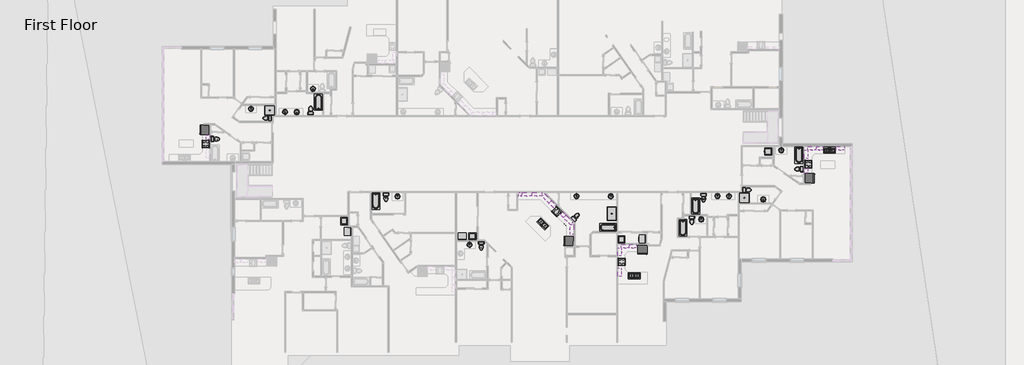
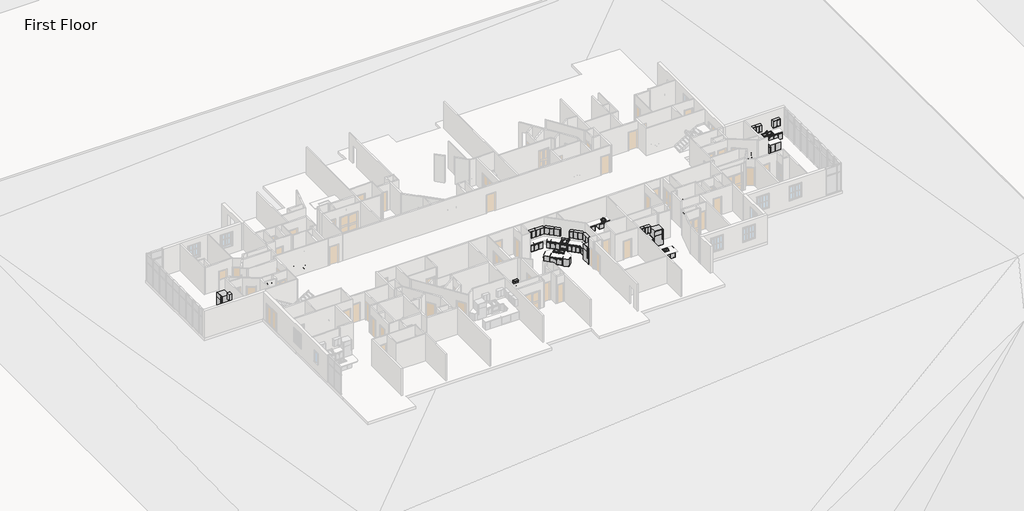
# One storey, part 14 of 17: 64 furniture elements, 35 flow terminals, 15 proxies.
"""IFC4 building model written with IfcOpenShell, lengths in millimetres."""

from ifc_helpers import new_model, si_unit, origin, place, context, project, spatial, transform, mapped, element, save
from components import proxy_6b4a07a9, proxy_fbb4c072, proxy_9109806d, proxy_718fa39f, proxy_f3e01b1d, flow_terminal_54cced83, flow_terminal_5dba0d75, flow_terminal_a53be723, flow_terminal_d49f872f, toilet_domestic_3d_toilet_domestic_3d_f7549cf7, toilet_domestic_3d_toilet_domestic_3d_183bbd19, toilet_domestic_3d_toilet_domestic_3d_a08e12bc, toilet_domestic_3d_toilet_domestic_3d_5530cc89, tub_rectangular_3d_tub_rectangular_3d_72a4d900, tub_rectangular_3d_tub_rectangular_3d_cbc2c449, furniture_0fc2bd2a, furniture_337523c0, furniture_6e8794dd, furniture_07bc9410, furniture_b282fead, furniture_94ff1b7c, furniture_6a014568, furniture_338da5bd, furniture_7de88fd5, furniture_695a55eb, furniture_b6fbc004, furniture_07c0da44, furniture_bfd559e3, base_cabinet_filler_base_cabinet_filler_2f0b3f4e, base_cabinet_filler_base_cabinet_filler_5f1ac9d6, base_cabinet_filler_base_cabinet_filler_83579e99, furniture_de2c603d, furniture_b1f16c95, furniture_c6a3367d, upper_cabinet_filler_wall_upper_cabinet_filler_wall_ebdf5134, furniture_d9efccb3, furniture_13c6450d, furniture_a47b5ef4, furniture_b880e30f, furniture_9117db5d, furniture_b34976c1, furniture_fa9c5d5b

model = new_model("IFC4")

# Units and contexts
model_context = context("Model", 3, world=origin())
ifc_project = project(units=[si_unit("LENGTHUNIT", "METRE", prefix="MILLI")], contexts=[model_context])

# Site, building, storey
site = spatial("IfcSite", under=ifc_project)
building = spatial("IfcBuilding", under=site)
storey = spatial("IfcBuildingStorey", under=building, Name="First Floor", Elevation=0.0)

# Proxies
placement = place(None, origin())
proxy_shape = proxy_6b4a07a9(model_context)
element("IfcBuildingElementProxy", 1, Name="Dryer : 30\" x 25\" x 35\"", ObjectType="Dryer : 30\" x 25\" x 35\"", at=placement, inside=storey, context=model_context, shape_type="MappedRepresentation", body=[
    mapped(proxy_shape, transform((44173.5487851, -8537.825475, 0.0), x_axis=(0.0, -1.0, 0.0), y_axis=(1.0, 0.0, 0.0), z_axis=(0.0, 0.0, 1.0))),
])
element("IfcBuildingElementProxy", 2, Name="Dryer : 30\" x 25\" x 35\"", ObjectType="Dryer : 30\" x 25\" x 35\"", at=placement, inside=storey, context=model_context, shape_type="MappedRepresentation", body=[
    mapped(proxy_shape, transform((28406.7740425, -8419.0812648, 0.0), x_axis=(-1.0, 0.0, 0.0), y_axis=(0.0, -1.0, 0.0), z_axis=(0.0, 0.0, 1.0))),
])
element("IfcBuildingElementProxy", 3, Name="Dryer : 30\" x 25\" x 35\"", ObjectType="Dryer : 30\" x 25\" x 35\"", at=placement, inside=storey, context=model_context, shape_type="MappedRepresentation", body=[
    mapped(proxy_shape, transform((17205.55813, -7837.3845163, 0.0), x_axis=(0.0, -1.0, 0.0), y_axis=(1.0, 0.0, 0.0), z_axis=(0.0, 0.0, 1.0))),
])
proxy_2_shape = proxy_fbb4c072(model_context)
element("IfcBuildingElementProxy", 4, Name="Range : 30\" x 26\"", ObjectType="Range : 30\" x 26\"", at=placement, inside=storey, context=model_context, shape_type="MappedRepresentation", body=[
    mapped(proxy_2_shape, transform((4220.3003923, 131.5202225, 0.0), x_axis=(0.0, -1.0, 0.0), y_axis=(1.0, 0.0, 0.0), z_axis=(0.0, 0.0, 1.0))),
])
element("IfcBuildingElementProxy", 5, Name="Range : 30\" x 26\"", ObjectType="Range : 30\" x 26\"", at=placement, inside=storey, context=model_context, shape_type="MappedRepresentation", body=[
    mapped(proxy_2_shape, transform((36146.5032482, -6394.5854043, 0.0), x_axis=(0.7071067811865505, -0.7071067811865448, 0.0), y_axis=(0.7071067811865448, 0.7071067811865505, 0.0), z_axis=(0.0, 0.0, 1.0))),
])
element("IfcBuildingElementProxy", 6, Name="Range : 30\" x 26\"", ObjectType="Range : 30\" x 26\"", at=placement, inside=storey, context=model_context, shape_type="MappedRepresentation", body=[
    mapped(proxy_2_shape, transform((59969.853994, -2480.7028474, 0.0), x_axis=(0.0, 1.0, 0.0), y_axis=(-1.0, 0.0, 0.0), z_axis=(0.0, 0.0, 1.0))),
])
element("IfcBuildingElementProxy", 7, Name="Range : 30\" x 26\"", ObjectType="Range : 30\" x 26\"", at=placement, inside=storey, context=model_context, shape_type="MappedRepresentation", body=[
    mapped(proxy_2_shape, transform((42884.6470292, -11433.5876998, 0.0), x_axis=(0.0, 1.0, 0.0), y_axis=(-1.0, 0.0, 0.0), z_axis=(0.0, 0.0, 1.0))),
])
proxy_3_shape = proxy_9109806d(model_context)
element("IfcBuildingElementProxy", 8, Name="Refrigerator : 35\" x 32\" RH", ObjectType="Refrigerator : 35\" x 32\" RH", at=placement, inside=storey, context=model_context, shape_type="MappedRepresentation", body=[
    mapped(proxy_3_shape, transform((4425.725539, 1036.2685137, 0.0), x_axis=(0.0, -1.0, 0.0), y_axis=(1.0, 0.0, 0.0), z_axis=(0.0, 0.0, 1.0))),
])
element("IfcBuildingElementProxy", 9, Name="Refrigerator : 35\" x 32\" RH", ObjectType="Refrigerator : 35\" x 32\" RH", at=placement, inside=storey, context=model_context, shape_type="MappedRepresentation", body=[
    mapped(proxy_3_shape, transform((37739.4505062, -9160.9400492, 0.0), x_axis=(-0.0020172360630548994, -0.9999979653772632, 0.0), y_axis=(0.9999979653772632, -0.0020172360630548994, 0.0), z_axis=(0.0, 0.0, 1.0))),
])
element("IfcBuildingElementProxy", 10, Name="Refrigerator : 35\" x 32\" RH", ObjectType="Refrigerator : 35\" x 32\" RH", at=placement, inside=storey, context=model_context, shape_type="MappedRepresentation", body=[
    mapped(proxy_3_shape, transform((59764.4288473, -3385.4511385, 0.0), x_axis=(0.0, 1.0, 0.0), y_axis=(-1.0, 0.0, 0.0), z_axis=(0.0, 0.0, 1.0))),
])
element("IfcBuildingElementProxy", 11, Name="Refrigerator : 35\" x 32\" RH", ObjectType="Refrigerator : 35\" x 32\" RH", at=placement, inside=storey, context=model_context, shape_type="MappedRepresentation", body=[
    mapped(proxy_3_shape, transform((44469.7001082, -9909.0410777, 0.0), x_axis=(1.0, 0.0, 0.0), y_axis=(0.0, 1.0, 0.0), z_axis=(0.0, 0.0, 1.0))),
])
proxy_4_shape = proxy_718fa39f(model_context)
element("IfcBuildingElementProxy", 12, Name="Washer : 27\" x 25\" x 35\"", ObjectType="Washer : 27\" x 25\" x 35\"", at=placement, inside=storey, context=model_context, shape_type="MappedRepresentation", body=[
    mapped(proxy_4_shape, transform((42820.896594, -9415.6051683, 0.0), x_axis=(0.0, 1.0, 0.0), y_axis=(-1.0, 0.0, 0.0), z_axis=(0.0, 0.0, 1.0))),
])
element("IfcBuildingElementProxy", 13, Name="Washer : 27\" x 25\" x 35\"", ObjectType="Washer : 27\" x 25\" x 35\"", at=placement, inside=storey, context=model_context, shape_type="MappedRepresentation", body=[
    mapped(proxy_4_shape, transform((29345.0797218, -8454.5927038, 0.0), x_axis=(-1.0, 0.0, 0.0), y_axis=(0.0, -1.0, 0.0), z_axis=(0.0, 0.0, 1.0))),
])
element("IfcBuildingElementProxy", 14, Name="Washer : 27\" x 25\" x 35\"", ObjectType="Washer : 27\" x 25\" x 35\"", at=placement, inside=storey, context=model_context, shape_type="MappedRepresentation", body=[
    mapped(proxy_4_shape, transform((16924.7421343, -6896.1954628, 0.0), x_axis=(0.0, -1.0, 0.0), y_axis=(1.0, 0.0, 0.0), z_axis=(0.0, 0.0, 1.0))),
])
proxy_5_shape = proxy_f3e01b1d(model_context)
element("IfcBuildingElementProxy", 15, Name="Washer_Dryer_Combo : 24\"", ObjectType="Washer_Dryer_Combo : 24\"", at=placement, inside=storey, context=model_context, shape_type="MappedRepresentation", body=[
    mapped(proxy_5_shape, transform((56408.3907443, -949.2863988, 0.0), x_axis=(0.0, -1.0, 0.0), y_axis=(1.0, 0.0, 0.0), z_axis=(0.0, 0.0, 1.0))),
])

# Flow terminals
flow_terminal_shape = flow_terminal_54cced83(model_context)
element("IfcFlowTerminal", 16, ObjectType="Shower Base-3D : 36\" x 36\"", at=placement, inside=storey, context=model_context, shape_type="MappedRepresentation", body=[
    mapped(flow_terminal_shape, transform((10380.0467971, 2838.6124849, 0.0), x_axis=(0.0, 1.0, 0.0), y_axis=(-1.0, 0.0, 0.0), z_axis=(0.0, 0.0, 1.0))),
])
element("IfcFlowTerminal", 17, ObjectType="Shower Base-3D : 36\" x 36\"", at=placement, inside=storey, context=model_context, shape_type="MappedRepresentation", body=[
    mapped(flow_terminal_shape, transform((53810.1075892, -5187.7951097, 0.0), x_axis=(0.0, -1.0, 0.0), y_axis=(1.0, 0.0, 0.0), z_axis=(0.0, 0.0, 1.0))),
])
flow_terminal_2_shape = flow_terminal_5dba0d75(model_context)
element("IfcFlowTerminal", 18, ObjectType="Shower Base-3D : 48\" x 34\"", at=placement, inside=storey, context=model_context, shape_type="MappedRepresentation", body=[
    mapped(flow_terminal_2_shape, transform((41676.7713345, -6632.5917963, 0.0), x_axis=(0.0, 1.0, 0.0), y_axis=(-1.0, 0.0, 0.0), z_axis=(0.0, 0.0, 1.0))),
])
flow_terminal_3_shape = flow_terminal_a53be723(model_context)
element("IfcFlowTerminal", 19, ObjectType="Sink Kitchen-Double : 42\" x 21\"", at=placement, inside=storey, context=model_context, shape_type="MappedRepresentation", body=[
    mapped(flow_terminal_3_shape, transform((35369.4238071, -7586.7342025, 0.0), x_axis=(-0.7071067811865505, 0.7071067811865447, 0.0), y_axis=(-0.7071067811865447, -0.7071067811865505, 0.0), z_axis=(0.0, 0.0, 1.0))),
])
element("IfcFlowTerminal", 20, ObjectType="Sink Kitchen-Double : 42\" x 21\"", at=placement, inside=storey, context=model_context, shape_type="MappedRepresentation", body=[
    mapped(flow_terminal_3_shape, transform((61579.7647534, -809.7591569, 0.0), x_axis=(1.0, 0.0, 0.0), y_axis=(0.0, 1.0, 0.0), z_axis=(0.0, 0.0, 1.0))),
])
element("IfcFlowTerminal", 21, ObjectType="Sink Kitchen-Double : 42\" x 21\"", at=placement, inside=storey, context=model_context, shape_type="MappedRepresentation", body=[
    mapped(flow_terminal_3_shape, transform((43757.5862697, -12345.6422987, 0.0), x_axis=(-1.0, 0.0, 0.0), y_axis=(0.0, -1.0, 0.0), z_axis=(0.0, 0.0, 1.0))),
])
flow_terminal_4_shape = flow_terminal_d49f872f(model_context)
element("IfcFlowTerminal", 22, ObjectType="Sink Vanity-Round : 19\" x 19\"", at=placement, inside=storey, context=model_context, shape_type="MappedRepresentation", body=[
    mapped(flow_terminal_4_shape, transform((14429.6552962, 4892.9733129, 0.0), x_axis=(-1.0, 0.0, 0.0), y_axis=(0.0, -1.0, 0.0), z_axis=(0.0, 0.0, 1.0))),
])
element("IfcFlowTerminal", 23, ObjectType="Sink Vanity-Round : 19\" x 19\"", at=placement, inside=storey, context=model_context, shape_type="MappedRepresentation", body=[
    mapped(flow_terminal_4_shape, transform((8560.7111773, 2889.4483435, 0.0), x_axis=(1.0, 0.0, 0.0), y_axis=(0.0, 1.0, 0.0), z_axis=(0.0, 0.0, 1.0))),
])
element("IfcFlowTerminal", 24, ObjectType="Sink Vanity-Round : 19\" x 19\"", at=placement, inside=storey, context=model_context, shape_type="MappedRepresentation", body=[
    mapped(flow_terminal_4_shape, transform((12946.89091, 2757.2346539, 0.0), x_axis=(-1.0, 0.0, 0.0), y_axis=(0.0, -1.0, 0.0), z_axis=(0.0, 0.0, 1.0))),
])
element("IfcFlowTerminal", 25, ObjectType="Sink Vanity-Round : 19\" x 19\"", at=placement, inside=storey, context=model_context, shape_type="MappedRepresentation", body=[
    mapped(flow_terminal_4_shape, transform((11880.09091, 2769.0116592, 0.0), x_axis=(-1.0, 0.0, 0.0), y_axis=(0.0, -1.0, 0.0), z_axis=(0.0, 0.0, 1.0))),
])
element("IfcFlowTerminal", 26, ObjectType="Sink Vanity-Round : 19\" x 19\"", at=placement, inside=storey, context=model_context, shape_type="MappedRepresentation", body=[
    mapped(flow_terminal_4_shape, transform((21972.1515274, -5140.3059377, 0.0), x_axis=(1.0, 0.0, 0.0), y_axis=(0.0, 1.0, 0.0), z_axis=(0.0, 0.0, 1.0))),
])
element("IfcFlowTerminal", 27, ObjectType="Sink Vanity-Round : 19\" x 19\"", at=placement, inside=storey, context=model_context, shape_type="MappedRepresentation", body=[
    mapped(flow_terminal_4_shape, transform((28570.2652609, -9561.5358358, 0.0), x_axis=(0.9999968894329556, -0.0024942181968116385, 0.0), y_axis=(0.0024942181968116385, 0.9999968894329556, 0.0), z_axis=(0.0, 0.0, 1.0))),
])
element("IfcFlowTerminal", 28, ObjectType="Sink Vanity-Round : 19\" x 19\"", at=placement, inside=storey, context=model_context, shape_type="MappedRepresentation", body=[
    mapped(flow_terminal_4_shape, transform((49760.4990901, -7242.1559377, 0.0), x_axis=(1.0, 0.0, 0.0), y_axis=(0.0, 1.0, 0.0), z_axis=(0.0, 0.0, 1.0))),
])
element("IfcFlowTerminal", 29, ObjectType="Sink Vanity-Round : 19\" x 19\"", at=placement, inside=storey, context=model_context, shape_type="MappedRepresentation", body=[
    mapped(flow_terminal_4_shape, transform((57094.1764749, -902.6278973, 0.0), x_axis=(1.0, 0.0, 0.0), y_axis=(0.0, 1.0, 0.0), z_axis=(0.0, 0.0, 1.0))),
])
element("IfcFlowTerminal", 30, ObjectType="Sink Vanity-Round : 19\" x 19\"", at=placement, inside=storey, context=model_context, shape_type="MappedRepresentation", body=[
    mapped(flow_terminal_4_shape, transform((55629.443209, -5238.6309683, 0.0), x_axis=(-1.0, 0.0, 0.0), y_axis=(0.0, -1.0, 0.0), z_axis=(0.0, 0.0, 1.0))),
])
element("IfcFlowTerminal", 31, ObjectType="Sink Vanity-Round : 19\" x 19\"", at=placement, inside=storey, context=model_context, shape_type="MappedRepresentation", body=[
    mapped(flow_terminal_4_shape, transform((51243.2634763, -5106.4172787, 0.0), x_axis=(1.0, 0.0, 0.0), y_axis=(0.0, 1.0, 0.0), z_axis=(0.0, 0.0, 1.0))),
])
element("IfcFlowTerminal", 32, ObjectType="Sink Vanity-Round : 19\" x 19\"", at=placement, inside=storey, context=model_context, shape_type="MappedRepresentation", body=[
    mapped(flow_terminal_4_shape, transform((52310.0634763, -5118.194284, 0.0), x_axis=(1.0, 0.0, 0.0), y_axis=(0.0, 1.0, 0.0), z_axis=(0.0, 0.0, 1.0))),
])
element("IfcFlowTerminal", 33, ObjectType="Sink Vanity-Round : 19\" x 19\"", at=placement, inside=storey, context=model_context, shape_type="MappedRepresentation", body=[
    mapped(flow_terminal_4_shape, transform((38341.7231613, -5115.6895809, 0.0), x_axis=(0.9999992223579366, -0.0012471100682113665, 0.0), y_axis=(0.0012471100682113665, 0.9999992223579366, 0.0), z_axis=(0.0, 0.0, 1.0))),
])
element("IfcFlowTerminal", 34, ObjectType="Sink Vanity-Round : 19\" x 19\"", at=placement, inside=storey, context=model_context, shape_type="MappedRepresentation", body=[
    mapped(flow_terminal_4_shape, transform((41492.5955893, -5132.2087994, 0.0), x_axis=(0.9999968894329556, -0.0024942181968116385, 0.0), y_axis=(0.0024942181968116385, 0.9999968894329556, 0.0), z_axis=(0.0, 0.0, 1.0))),
])
toilet_domestic_3d_toilet_domestic_3d_shape = toilet_domestic_3d_toilet_domestic_3d_f7549cf7(model_context)
toilet_domestic_3d_toilet_domestic_3d_2_shape = toilet_domestic_3d_toilet_domestic_3d_183bbd19(model_context)
element("IfcFlowTerminal", 35, ObjectType="Toilet-Domestic-3D : Toilet-Domestic-3D", at=placement, inside=storey, context=model_context, shape_type="MappedRepresentation", body=[
    mapped(toilet_domestic_3d_toilet_domestic_3d_shape, transform((14122.4, 2916.9069921, 0.0), x_axis=(-1.0, 0.0, 0.0), y_axis=(0.0, -1.0, 0.0), z_axis=(0.0, 0.0, 1.0))),
    mapped(toilet_domestic_3d_toilet_domestic_3d_2_shape, transform((14122.4, 2916.9069921, 0.0), x_axis=(-1.0, 0.0, 0.0), y_axis=(0.0, -1.0, 0.0), z_axis=(0.0, 0.0, 1.0))),
])
element("IfcFlowTerminal", 36, ObjectType="Toilet-Domestic-3D : Toilet-Domestic-3D", at=placement, inside=storey, context=model_context, shape_type="MappedRepresentation", body=[
    mapped(toilet_domestic_3d_toilet_domestic_3d_shape, transform((5489.6964197, 205.0443161, 0.0), x_axis=(0.0, 1.0, 0.0), y_axis=(-1.0, 0.0, 0.0), z_axis=(0.0, 0.0, 1.0))),
    mapped(toilet_domestic_3d_toilet_domestic_3d_2_shape, transform((5489.6964197, 205.0443161, 0.0), x_axis=(0.0, 1.0, 0.0), y_axis=(-1.0, 0.0, 0.0), z_axis=(0.0, 0.0, 1.0))),
])
element("IfcFlowTerminal", 37, ObjectType="Toilet-Domestic-3D : Toilet-Domestic-3D", at=placement, inside=storey, context=model_context, shape_type="MappedRepresentation", body=[
    mapped(toilet_domestic_3d_toilet_domestic_3d_shape, transform((21010.1543863, -5232.0826248, 0.0), x_axis=(1.0, 0.0, 0.0), y_axis=(0.0, 1.0, 0.0), z_axis=(0.0, 0.0, 1.0))),
    mapped(toilet_domestic_3d_toilet_domestic_3d_2_shape, transform((21010.1543863, -5232.0826248, 0.0), x_axis=(1.0, 0.0, 0.0), y_axis=(0.0, 1.0, 0.0), z_axis=(0.0, 0.0, 1.0))),
])
element("IfcFlowTerminal", 38, ObjectType="Toilet-Domestic-3D : Toilet-Domestic-3D", at=placement, inside=storey, context=model_context, shape_type="MappedRepresentation", body=[
    mapped(toilet_domestic_3d_toilet_domestic_3d_shape, transform((29733.3816535, -9682.6542097, 0.0), x_axis=(1.0, 0.0, 0.0), y_axis=(0.0, 1.0, 0.0), z_axis=(0.0, 0.0, 1.0))),
    mapped(toilet_domestic_3d_toilet_domestic_3d_2_shape, transform((29733.3816535, -9682.6542097, 0.0), x_axis=(1.0, 0.0, 0.0), y_axis=(0.0, 1.0, 0.0), z_axis=(0.0, 0.0, 1.0))),
])
element("IfcFlowTerminal", 39, ObjectType="Toilet-Domestic-3D : Toilet-Domestic-3D", at=placement, inside=storey, context=model_context, shape_type="MappedRepresentation", body=[
    mapped(toilet_domestic_3d_toilet_domestic_3d_shape, transform((50067.7543863, -5266.0896169, 0.0), x_axis=(1.0, 0.0, 0.0), y_axis=(0.0, 1.0, 0.0), z_axis=(0.0, 0.0, 1.0))),
    mapped(toilet_domestic_3d_toilet_domestic_3d_2_shape, transform((50067.7543863, -5266.0896169, 0.0), x_axis=(1.0, 0.0, 0.0), y_axis=(0.0, 1.0, 0.0), z_axis=(0.0, 0.0, 1.0))),
])
element("IfcFlowTerminal", 40, ObjectType="Toilet-Domestic-3D : Toilet-Domestic-3D", at=placement, inside=storey, context=model_context, shape_type="MappedRepresentation", body=[
    mapped(toilet_domestic_3d_toilet_domestic_3d_shape, transform((49000.9543863, -7330.4878236, 0.0), x_axis=(1.0, 0.0, 0.0), y_axis=(0.0, 1.0, 0.0), z_axis=(0.0, 0.0, 1.0))),
    mapped(toilet_domestic_3d_toilet_domestic_3d_2_shape, transform((49000.9543863, -7330.4878236, 0.0), x_axis=(1.0, 0.0, 0.0), y_axis=(0.0, 1.0, 0.0), z_axis=(0.0, 0.0, 1.0))),
])
element("IfcFlowTerminal", 41, ObjectType="Toilet-Domestic-3D : Toilet-Domestic-3D", at=placement, inside=storey, context=model_context, shape_type="MappedRepresentation", body=[
    mapped(toilet_domestic_3d_toilet_domestic_3d_shape, transform((58700.4579666, -2554.2269409, 0.0), x_axis=(0.0, -1.0, 0.0), y_axis=(1.0, 0.0, 0.0), z_axis=(0.0, 0.0, 1.0))),
    mapped(toilet_domestic_3d_toilet_domestic_3d_2_shape, transform((58700.4579666, -2554.2269409, 0.0), x_axis=(0.0, -1.0, 0.0), y_axis=(1.0, 0.0, 0.0), z_axis=(0.0, 0.0, 1.0))),
])
toilet_domestic_3d_toilet_domestic_3d_3_shape = toilet_domestic_3d_toilet_domestic_3d_a08e12bc(model_context)
toilet_domestic_3d_toilet_domestic_3d_4_shape = toilet_domestic_3d_toilet_domestic_3d_5530cc89(model_context)
element("IfcFlowTerminal", 42, ObjectType="Toilet-Domestic-3D : Toilet-Domestic-3D", at=placement, inside=storey, context=model_context, shape_type="MappedRepresentation", body=[
    mapped(toilet_domestic_3d_toilet_domestic_3d_3_shape, transform((10058.4, 2108.2, 0.0), x_axis=(-0.0047058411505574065, 0.9999889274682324, 0.0), y_axis=(-0.9999889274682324, -0.0047058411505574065, 0.0), z_axis=(0.0, 0.0, 1.0))),
    mapped(toilet_domestic_3d_toilet_domestic_3d_4_shape, transform((10058.4, 2108.2, 0.0), x_axis=(-0.0047058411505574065, 0.9999889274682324, 0.0), y_axis=(-0.9999889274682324, -0.0047058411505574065, 0.0), z_axis=(0.0, 0.0, 1.0))),
])
element("IfcFlowTerminal", 43, ObjectType="Toilet-Domestic-3D : Toilet-Domestic-3D", at=placement, inside=storey, context=model_context, shape_type="MappedRepresentation", body=[
    mapped(toilet_domestic_3d_toilet_domestic_3d_3_shape, transform((38442.3451273, -6863.8979733, 0.0), x_axis=(0.719617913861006, -0.6943702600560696, 0.0), y_axis=(0.6943702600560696, 0.719617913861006, 0.0), z_axis=(0.0, 0.0, 1.0))),
    mapped(toilet_domestic_3d_toilet_domestic_3d_4_shape, transform((38442.3451273, -6863.8979733, 0.0), x_axis=(0.719617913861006, -0.6943702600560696, 0.0), y_axis=(0.6943702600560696, 0.719617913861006, 0.0), z_axis=(0.0, 0.0, 1.0))),
])
element("IfcFlowTerminal", 44, ObjectType="Toilet-Domestic-3D : Toilet-Domestic-3D", at=placement, inside=storey, context=model_context, shape_type="MappedRepresentation", body=[
    mapped(toilet_domestic_3d_toilet_domestic_3d_3_shape, transform((54131.7543863, -4457.3826248, 0.0), x_axis=(0.004705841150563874, -0.9999889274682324, 0.0), y_axis=(0.9999889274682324, 0.004705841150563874, 0.0), z_axis=(0.0, 0.0, 1.0))),
    mapped(toilet_domestic_3d_toilet_domestic_3d_4_shape, transform((54131.7543863, -4457.3826248, 0.0), x_axis=(0.004705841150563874, -0.9999889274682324, 0.0), y_axis=(0.9999889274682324, 0.004705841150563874, 0.0), z_axis=(0.0, 0.0, 1.0))),
])
tub_rectangular_3d_tub_rectangular_3d_shape = tub_rectangular_3d_tub_rectangular_3d_72a4d900(model_context)
element("IfcFlowTerminal", 45, ObjectType="Tub-Rectangular-3D : Tub-Rectangular-3D", at=placement, inside=storey, context=model_context, shape_type="MappedRepresentation", body=[
    mapped(tub_rectangular_3d_tub_rectangular_3d_shape, transform((15278.2993195, 3946.2121401, 0.0), x_axis=(0.0, 1.0, 0.0), y_axis=(-1.0, 0.0, 0.0), z_axis=(0.0, 0.0, 1.0))),
])
element("IfcFlowTerminal", 46, ObjectType="Tub-Rectangular-3D : Tub-Rectangular-3D", at=placement, inside=storey, context=model_context, shape_type="MappedRepresentation", body=[
    mapped(tub_rectangular_3d_tub_rectangular_3d_shape, transform((48911.8550668, -6295.394765, 0.0), x_axis=(0.0, -1.0, 0.0), y_axis=(1.0, 0.0, 0.0), z_axis=(0.0, 0.0, 1.0))),
])
element("IfcFlowTerminal", 47, ObjectType="Tub-Rectangular-3D : Tub-Rectangular-3D", at=placement, inside=storey, context=model_context, shape_type="MappedRepresentation", body=[
    mapped(tub_rectangular_3d_tub_rectangular_3d_shape, transform((47733.9460269, -8284.6757706, 0.0), x_axis=(0.0, -1.0, 0.0), y_axis=(1.0, 0.0, 0.0), z_axis=(0.0, 0.0, 1.0))),
])
element("IfcFlowTerminal", 48, ObjectType="Tub-Rectangular-3D : Tub-Rectangular-3D", at=placement, inside=storey, context=model_context, shape_type="MappedRepresentation", body=[
    mapped(tub_rectangular_3d_tub_rectangular_3d_shape, transform((19641.0094272, -5812.794765, 0.0), x_axis=(0.0, -1.0, 0.0), y_axis=(1.0, 0.0, 0.0), z_axis=(0.0, 0.0, 1.0))),
])
tub_rectangular_3d_tub_rectangular_3d_2_shape = tub_rectangular_3d_tub_rectangular_3d_cbc2c449(model_context)
element("IfcFlowTerminal", 49, ObjectType="Tub-Rectangular-3D : Tub-Rectangular-3D", at=placement, inside=storey, context=model_context, shape_type="MappedRepresentation", body=[
    mapped(tub_rectangular_3d_tub_rectangular_3d_2_shape, transform((59252.303994, -1606.8667245, 0.0), x_axis=(0.0, -1.0, 0.0), y_axis=(1.0, 0.0, 0.0), z_axis=(0.0, 0.0, 1.0))),
])
element("IfcFlowTerminal", 50, ObjectType="Tub-Rectangular-3D : Tub-Rectangular-3D", at=placement, inside=storey, context=model_context, shape_type="MappedRepresentation", body=[
    mapped(tub_rectangular_3d_tub_rectangular_3d_2_shape, transform((40980.2940605, -8335.220689, 0.0), x_axis=(-1.0, 0.0, 0.0), y_axis=(0.0, -1.0, 0.0), z_axis=(0.0, 0.0, 1.0))),
])

# Furniture
furniture_shape = furniture_0fc2bd2a(model_context)
element("IfcFurniture", 51, ObjectType="Base Cabinet-Single Door & Drawer : 15\"'", at=placement, inside=storey, context=model_context, shape_type="MappedRepresentation", body=[
    mapped(furniture_shape, transform((35825.0991707, -5126.9258003, 0.0), x_axis=(0.7071067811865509, -0.7071067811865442, 0.0), y_axis=(0.7071067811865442, 0.7071067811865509, 0.0), z_axis=(0.0, 0.0, 1.0))),
])
element("IfcFurniture", 52, ObjectType="Base Cabinet-Single Door & Drawer : 15\"'", at=placement, inside=storey, context=model_context, shape_type="MappedRepresentation", body=[
    mapped(furniture_shape, transform((37810.919328, -7127.7174378, 0.0), x_axis=(0.7056789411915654, -0.7085317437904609, 0.0), y_axis=(0.7085317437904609, 0.7056789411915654, 0.0), z_axis=(0.0, 0.0, 1.0))),
])
furniture_2_shape = furniture_337523c0(model_context)
element("IfcFurniture", 53, ObjectType="Base Cabinet-Single Door & Drawer : 12\"", at=placement, inside=storey, context=model_context, shape_type="MappedRepresentation", body=[
    mapped(furniture_2_shape, transform((42224.2470292, -10500.4499949, 0.0), x_axis=(0.0, -1.0, 0.0), y_axis=(1.0, 0.0, 0.0), z_axis=(0.0, 0.0, 1.0))),
])
furniture_3_shape = furniture_6e8794dd(model_context)
element("IfcFurniture", 54, ObjectType="Base Cabinet-Single Door & Drawer : 12\"", at=placement, inside=storey, context=model_context, shape_type="MappedRepresentation", body=[
    mapped(furniture_3_shape, transform((59309.453994, -1583.9741037, 0.0), x_axis=(0.0, 1.0, 0.0), y_axis=(-1.0, 0.0, 0.0), z_axis=(0.0, 0.0, 1.0))),
])
element("IfcFurniture", 55, ObjectType="Base Cabinet-Single Door & Drawer : 12\"", at=placement, inside=storey, context=model_context, shape_type="MappedRepresentation", body=[
    mapped(furniture_3_shape, transform((42224.2470292, -11604.7254047, 0.0), x_axis=(0.0, 1.0, 0.0), y_axis=(-1.0, 0.0, 0.0), z_axis=(0.0, 0.0, 1.0))),
])
furniture_4_shape = furniture_07bc9410(model_context)
element("IfcFurniture", 56, ObjectType="Base Cabinet-Single Door & Drawer : 18\"", at=placement, inside=storey, context=model_context, shape_type="MappedRepresentation", body=[
    mapped(furniture_4_shape, transform((4880.7003923, 341.3825176, 0.0), x_axis=(0.0, 1.0, 0.0), y_axis=(-1.0, 0.0, 0.0), z_axis=(0.0, 0.0, 1.0))),
])
element("IfcFurniture", 57, ObjectType="Base Cabinet-Single Door & Drawer : 18\"", at=placement, inside=storey, context=model_context, shape_type="MappedRepresentation", body=[
    mapped(furniture_4_shape, transform((59309.453994, -2690.5651424, 0.0), x_axis=(0.0, -1.0, 0.0), y_axis=(1.0, 0.0, 0.0), z_axis=(0.0, 0.0, 1.0))),
])
furniture_5_shape = furniture_b282fead(model_context)
element("IfcFurniture", 58, ObjectType="Base Cabinet-Single Door & Drawer : 21\"", at=placement, inside=storey, context=model_context, shape_type="MappedRepresentation", body=[
    mapped(furniture_5_shape, transform((44636.9347341, -12652.7876998, 0.0), x_axis=(-1.0, 0.0, 0.0), y_axis=(0.0, -1.0, 0.0), z_axis=(0.0, 0.0, 1.0))),
])
furniture_6_shape = furniture_94ff1b7c(model_context)
element("IfcFurniture", 59, ObjectType="Base Cabinet-Single Door & Drawer : 24\"", at=placement, inside=storey, context=model_context, shape_type="MappedRepresentation", body=[
    mapped(furniture_6_shape, transform((3057.9741763, 98.2194727, 0.0), x_axis=(-1.0, 0.0, 0.0), y_axis=(0.0, -1.0, 0.0), z_axis=(0.0, 0.0, 1.0))),
])
element("IfcFurniture", 60, ObjectType="Base Cabinet-Single Door & Drawer : 24\"", at=placement, inside=storey, context=model_context, shape_type="MappedRepresentation", body=[
    mapped(furniture_6_shape, transform((61132.18021, -2447.4020975, 0.0), x_axis=(1.0, 0.0, 0.0), y_axis=(0.0, 1.0, 0.0), z_axis=(0.0, 0.0, 1.0))),
])
furniture_7_shape = furniture_6a014568(model_context)
element("IfcFurniture", 61, ObjectType="Base Cabinet-Single Door & Drawer : 24\"", at=placement, inside=storey, context=model_context, shape_type="MappedRepresentation", body=[
    mapped(furniture_7_shape, transform((2410.8987665, 98.2194727, 0.0), x_axis=(1.0, 0.0, 0.0), y_axis=(0.0, 1.0, 0.0), z_axis=(0.0, 0.0, 1.0))),
])
element("IfcFurniture", 62, ObjectType="Base Cabinet-Single Door & Drawer : 24\"", at=placement, inside=storey, context=model_context, shape_type="MappedRepresentation", body=[
    mapped(furniture_7_shape, transform((35343.4218314, -8452.6528289, 0.0), x_axis=(0.7071067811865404, 0.7071067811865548, 0.0), y_axis=(-0.7071067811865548, 0.7071067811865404, 0.0), z_axis=(0.0, 0.0, 1.0))),
])
element("IfcFurniture", 63, ObjectType="Base Cabinet-Single Door & Drawer : 24\"", at=placement, inside=storey, context=model_context, shape_type="MappedRepresentation", body=[
    mapped(furniture_7_shape, transform((34507.8163602, -7564.0491249, 0.0), x_axis=(-0.7071067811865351, -0.70710678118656, 0.0), y_axis=(0.70710678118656, -0.7071067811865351, 0.0), z_axis=(0.0, 0.0, 1.0))),
])
element("IfcFurniture", 64, ObjectType="Base Cabinet-Single Door & Drawer : 24\"", at=placement, inside=storey, context=model_context, shape_type="MappedRepresentation", body=[
    mapped(furniture_7_shape, transform((61779.2556198, -2447.4020975, 0.0), x_axis=(-1.0, 0.0, 0.0), y_axis=(0.0, -1.0, 0.0), z_axis=(0.0, 0.0, 1.0))),
])
furniture_8_shape = furniture_338da5bd(model_context)
element("IfcFurniture", 65, ObjectType="Base Cabinet-Double Door & 2 Drawer : 30\"", at=placement, inside=storey, context=model_context, shape_type="MappedRepresentation", body=[
    mapped(furniture_8_shape, transform((37407.9328066, -6723.1017889, 0.0), x_axis=(0.7056789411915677, -0.7085317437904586, 0.0), y_axis=(0.7085317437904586, 0.7056789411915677, 0.0), z_axis=(0.0, 0.0, 1.0))),
])
furniture_9_shape = furniture_7de88fd5(model_context)
element("IfcFurniture", 66, ObjectType="Base Cabinet-Double Door & 2 Drawer : 33\"", at=placement, inside=storey, context=model_context, shape_type="MappedRepresentation", body=[
    mapped(furniture_9_shape, transform((43539.0093243, -9452.3876998, 0.0), x_axis=(1.0, 0.0, 0.0), y_axis=(0.0, 1.0, 0.0), z_axis=(0.0, 0.0, 1.0))),
])
furniture_10_shape = furniture_695a55eb(model_context)
element("IfcFurniture", 67, ObjectType="Base Cabinet-Double Door & 2 Drawer : 36\"", at=placement, inside=storey, context=model_context, shape_type="MappedRepresentation", body=[
    mapped(furniture_10_shape, transform((62528.5916989, -502.6137558, 0.0), x_axis=(-1.0, 0.0, 0.0), y_axis=(0.0, -1.0, 0.0), z_axis=(0.0, 0.0, 1.0))),
])
element("IfcFurniture", 68, ObjectType="Base Cabinet-Double Door & 2 Drawer : 36\"", at=placement, inside=storey, context=model_context, shape_type="MappedRepresentation", body=[
    mapped(furniture_10_shape, transform((61614.1916989, -502.6137558, 0.0), x_axis=(-1.0, 0.0, 0.0), y_axis=(0.0, -1.0, 0.0), z_axis=(0.0, 0.0, 1.0))),
])
element("IfcFurniture", 69, ObjectType="Base Cabinet-Double Door & 2 Drawer : 36\"", at=placement, inside=storey, context=model_context, shape_type="MappedRepresentation", body=[
    mapped(furniture_10_shape, transform((60699.7916989, -502.6137558, 0.0), x_axis=(-1.0, 0.0, 0.0), y_axis=(0.0, -1.0, 0.0), z_axis=(0.0, 0.0, 1.0))),
])
furniture_11_shape = furniture_b6fbc004(model_context)
element("IfcFurniture", 70, ObjectType="Base Cabinet-Double Door & 2 Drawer : 36\"", at=placement, inside=storey, context=model_context, shape_type="MappedRepresentation", body=[
    mapped(furniture_11_shape, transform((33534.2589917, -4708.5417963, 0.0), x_axis=(1.0, 0.0, 0.0), y_axis=(0.0, 1.0, 0.0), z_axis=(0.0, 0.0, 1.0))),
])
element("IfcFurniture", 71, ObjectType="Base Cabinet-Double Door & 2 Drawer : 36\"", at=placement, inside=storey, context=model_context, shape_type="MappedRepresentation", body=[
    mapped(furniture_11_shape, transform((34448.6589917, -4708.5417963, 0.0), x_axis=(1.0, 0.0, 0.0), y_axis=(0.0, 1.0, 0.0), z_axis=(0.0, 0.0, 1.0))),
])
element("IfcFurniture", 72, ObjectType="Base Cabinet-Double Door & 2 Drawer : 36\"", at=placement, inside=storey, context=model_context, shape_type="MappedRepresentation", body=[
    mapped(furniture_11_shape, transform((36283.0922328, -5584.9188625, 0.0), x_axis=(0.7071067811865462, -0.707106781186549, 0.0), y_axis=(0.707106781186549, 0.7071067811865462, 0.0), z_axis=(0.0, 0.0, 1.0))),
])
element("IfcFurniture", 73, ObjectType="Base Cabinet-Double Door & 2 Drawer : 36\"", at=placement, inside=storey, context=model_context, shape_type="MappedRepresentation", body=[
    mapped(furniture_11_shape, transform((38191.5400155, -8246.5337163, 0.0), x_axis=(0.0, -1.0, 0.0), y_axis=(1.0, 0.0, 0.0), z_axis=(0.0, 0.0, 1.0))),
])
furniture_12_shape = furniture_07c0da44(model_context)
element("IfcFurniture", 74, ObjectType="Base Cabinet-Double Door & 2 Drawer : 48\"", at=placement, inside=storey, context=model_context, shape_type="MappedRepresentation", body=[
    mapped(furniture_12_shape, transform((35154.3948009, -7806.0743882, 0.0), x_axis=(-0.7071067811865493, 0.7071067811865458, 0.0), y_axis=(-0.7071067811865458, -0.7071067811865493, 0.0), z_axis=(0.0, 0.0, 1.0))),
])
element("IfcFurniture", 75, ObjectType="Base Cabinet-Double Door & 2 Drawer : 48\"", at=placement, inside=storey, context=model_context, shape_type="MappedRepresentation", body=[
    mapped(furniture_12_shape, transform((35127.8956845, -7779.5752718, 0.0), x_axis=(0.7071067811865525, -0.7071067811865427, 0.0), y_axis=(0.7071067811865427, 0.7071067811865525, 0.0), z_axis=(0.0, 0.0, 1.0))),
])
element("IfcFurniture", 76, ObjectType="Base Cabinet-Double Door & 2 Drawer : 48\"", at=placement, inside=storey, context=model_context, shape_type="MappedRepresentation", body=[
    mapped(furniture_12_shape, transform((43760.6347341, -12652.7876998, 0.0), x_axis=(-1.0, 0.0, 0.0), y_axis=(0.0, -1.0, 0.0), z_axis=(0.0, 0.0, 1.0))),
])
furniture_13_shape = furniture_bfd559e3(model_context)
element("IfcFurniture", 77, ObjectType="Base Cabinet-Corner Unit-Angled : 36\"", at=placement, inside=storey, context=model_context, shape_type="MappedRepresentation", body=[
    mapped(furniture_13_shape, transform((59309.453994, -1029.3514607, 0.0), x_axis=(0.0, 1.0, 0.0), y_axis=(-1.0, 0.0, 0.0), z_axis=(0.0, 0.0, 1.0))),
])
element("IfcFurniture", 78, ObjectType="Base Cabinet-Corner Unit-Angled : 36\"", at=placement, inside=storey, context=model_context, shape_type="MappedRepresentation", body=[
    mapped(furniture_13_shape, transform((42224.2470292, -9979.1254047, 0.0), x_axis=(0.0, 1.0, 0.0), y_axis=(-1.0, 0.0, 0.0), z_axis=(0.0, 0.0, 1.0))),
])
element("IfcFurniture", 79, ObjectType="Base Cabinet-Corner Unit-Angled : 36\"", at=placement, inside=storey, context=model_context, shape_type="MappedRepresentation", body=[
    mapped(furniture_13_shape, transform((42744.6347341, -12652.7876998, 0.0), x_axis=(-1.0, 0.0, 0.0), y_axis=(0.0, -1.0, 0.0), z_axis=(0.0, 0.0, 1.0))),
])
base_cabinet_filler_base_cabinet_filler_shape = base_cabinet_filler_base_cabinet_filler_2f0b3f4e(model_context)
element("IfcFurniture", 80, ObjectType="Base Cabinet-Filler : Base Cabinet-Filler", at=placement, inside=storey, context=model_context, shape_type="MappedRepresentation", body=[
    mapped(base_cabinet_filler_base_cabinet_filler_shape, transform((38191.5400155, -7765.086947, 0.0), x_axis=(0.0, -1.0, 0.0), y_axis=(1.0, 0.0, 0.0), z_axis=(0.0, 0.0, 1.0))),
])
base_cabinet_filler_base_cabinet_filler_2_shape = base_cabinet_filler_base_cabinet_filler_5f1ac9d6(model_context)
element("IfcFurniture", 81, ObjectType="Base Cabinet-Filler : Base Cabinet-Filler", at=placement, inside=storey, context=model_context, shape_type="MappedRepresentation", body=[
    mapped(base_cabinet_filler_base_cabinet_filler_2_shape, transform((37971.6753186, -7289.0685883, 0.0), x_axis=(0.7071067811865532, -0.7071067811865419, 0.0), y_axis=(0.7071067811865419, 0.7071067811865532, 0.0), z_axis=(0.0, 0.0, 1.0))),
])
base_cabinet_filler_base_cabinet_filler_3_shape = base_cabinet_filler_base_cabinet_filler_83579e99(model_context)
element("IfcFurniture", 82, ObjectType="Base Cabinet-Filler : Base Cabinet-Filler", at=placement, inside=storey, context=model_context, shape_type="MappedRepresentation", body=[
    mapped(base_cabinet_filler_base_cabinet_filler_3_shape, transform((43985.4608638, -9452.3876998, 0.0), x_axis=(1.0, 0.0, 0.0), y_axis=(0.0, 1.0, 0.0), z_axis=(0.0, 0.0, 1.0))),
])
furniture_14_shape = furniture_de2c603d(model_context)
element("IfcFurniture", 83, ObjectType="Upper Cabinet-Double Door-Wall : 24\"", at=placement, inside=storey, context=model_context, shape_type="MappedRepresentation", body=[
    mapped(furniture_14_shape, transform((43625.618192, -9395.2376998, 0.0), x_axis=(-1.0, 0.0, 0.0), y_axis=(0.0, -1.0, 0.0), z_axis=(0.0, 0.0, 1.0))),
])
element("IfcFurniture", 84, ObjectType="Upper Cabinet-Double Door-Wall : 24\"", at=placement, inside=storey, context=model_context, shape_type="MappedRepresentation", body=[
    mapped(furniture_14_shape, transform((60710.8251568, -428.0012558, 0.0), x_axis=(-1.0, 0.0, 0.0), y_axis=(0.0, -1.0, 0.0), z_axis=(0.0, 0.0, 1.0))),
])
furniture_15_shape = furniture_b1f16c95(model_context)
element("IfcFurniture", 85, ObjectType="Upper Cabinet-Double Door-Wall : 30\"", at=placement, inside=storey, context=model_context, shape_type="MappedRepresentation", body=[
    mapped(furniture_15_shape, transform((42939.818192, -9395.2376998, 0.0), x_axis=(-1.0, 0.0, 0.0), y_axis=(0.0, -1.0, 0.0), z_axis=(0.0, 0.0, 1.0))),
])
element("IfcFurniture", 86, ObjectType="Upper Cabinet-Double Door-Wall : 30\"", at=placement, inside=storey, context=model_context, shape_type="MappedRepresentation", body=[
    mapped(furniture_15_shape, transform((42167.0970292, -10108.416537, 0.0), x_axis=(0.0, -1.0, 0.0), y_axis=(1.0, 0.0, 0.0), z_axis=(0.0, 0.0, 1.0))),
])
element("IfcFurniture", 87, ObjectType="Upper Cabinet-Double Door-Wall : 30\"", at=placement, inside=storey, context=model_context, shape_type="MappedRepresentation", body=[
    mapped(furniture_15_shape, transform((42167.0970292, -11960.618458, 0.0), x_axis=(0.0, -1.0, 0.0), y_axis=(1.0, 0.0, 0.0), z_axis=(0.0, 0.0, 1.0))),
])
element("IfcFurniture", 88, ObjectType="Upper Cabinet-Double Door-Wall : 30\"", at=placement, inside=storey, context=model_context, shape_type="MappedRepresentation", body=[
    mapped(furniture_15_shape, transform((60025.0251568, -428.0012558, 0.0), x_axis=(-1.0, 0.0, 0.0), y_axis=(0.0, -1.0, 0.0), z_axis=(0.0, 0.0, 1.0))),
])
element("IfcFurniture", 89, ObjectType="Upper Cabinet-Double Door-Wall : 30\"", at=placement, inside=storey, context=model_context, shape_type="MappedRepresentation", body=[
    mapped(furniture_15_shape, transform((59252.303994, -1158.642593, 0.0), x_axis=(0.0, -1.0, 0.0), y_axis=(1.0, 0.0, 0.0), z_axis=(0.0, 0.0, 1.0))),
])
element("IfcFurniture", 90, ObjectType="Upper Cabinet-Double Door-Wall : 30\"", at=placement, inside=storey, context=model_context, shape_type="MappedRepresentation", body=[
    mapped(furniture_15_shape, transform((62603.3716935, -428.0012558, 0.0), x_axis=(-1.0, 0.0, 0.0), y_axis=(0.0, -1.0, 0.0), z_axis=(0.0, 0.0, 1.0))),
])
furniture_16_shape = furniture_c6a3367d(model_context)
element("IfcFurniture", 91, ObjectType="Upper Cabinet-Double Door-Wall : 36\"", at=placement, inside=storey, context=model_context, shape_type="MappedRepresentation", body=[
    mapped(furniture_16_shape, transform((34853.0340356, -4651.3917963, 0.0), x_axis=(-1.0, 0.0, 0.0), y_axis=(0.0, -1.0, 0.0), z_axis=(0.0, 0.0, 1.0))),
])
element("IfcFurniture", 92, ObjectType="Upper Cabinet-Double Door-Wall : 36\"", at=placement, inside=storey, context=model_context, shape_type="MappedRepresentation", body=[
    mapped(furniture_16_shape, transform((35880.5540929, -5101.5584175, 0.0), x_axis=(-0.7071067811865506, 0.7071067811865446, 0.0), y_axis=(-0.7071067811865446, -0.7071067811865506, 0.0), z_axis=(0.0, 0.0, 1.0))),
])
element("IfcFurniture", 93, ObjectType="Upper Cabinet-Double Door-Wall : 36\"", at=placement, inside=storey, context=model_context, shape_type="MappedRepresentation", body=[
    mapped(furniture_16_shape, transform((37843.3737793, -7064.3781039, 0.0), x_axis=(-0.7071067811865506, 0.7071067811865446, 0.0), y_axis=(-0.7071067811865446, -0.7071067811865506, 0.0), z_axis=(0.0, 0.0, 1.0))),
])
element("IfcFurniture", 94, ObjectType="Upper Cabinet-Double Door-Wall : 36\"", at=placement, inside=storey, context=model_context, shape_type="MappedRepresentation", body=[
    mapped(furniture_16_shape, transform((38253.8005062, -8111.7005925, 0.0), x_axis=(0.0, 1.0, 0.0), y_axis=(-1.0, 0.0, 0.0), z_axis=(0.0, 0.0, 1.0))),
])
element("IfcFurniture", 95, ObjectType="Upper Cabinet-Double Door-Wall : 36\"", at=placement, inside=storey, context=model_context, shape_type="MappedRepresentation", body=[
    mapped(furniture_16_shape, transform((33938.6340356, -4651.3917963, 0.0), x_axis=(-1.0, 0.0, 0.0), y_axis=(0.0, -1.0, 0.0), z_axis=(0.0, 0.0, 1.0))),
])
upper_cabinet_filler_wall_upper_cabinet_filler_wall_shape = upper_cabinet_filler_wall_upper_cabinet_filler_wall_ebdf5134(model_context)
element("IfcFurniture", 96, ObjectType="Upper Cabinet-Filler-Wall : Upper Cabinet-Filler-Wall", at=placement, inside=storey, context=model_context, shape_type="MappedRepresentation", body=[
    mapped(upper_cabinet_filler_wall_upper_cabinet_filler_wall_shape, transform((33087.8078842, -4651.3917963, 0.0), x_axis=(1.0, 0.0, 0.0), y_axis=(0.0, 1.0, 0.0), z_axis=(0.0, 0.0, 1.0))),
])
furniture_17_shape = furniture_d9efccb3(model_context)
element("IfcFurniture", 97, ObjectType="Upper Cabinet-Single Door-Wall : 12\"", at=placement, inside=storey, context=model_context, shape_type="MappedRepresentation", body=[
    mapped(furniture_17_shape, transform((33329.0340356, -4651.3917963, 0.0), x_axis=(-1.0, 0.0, 0.0), y_axis=(0.0, -1.0, 0.0), z_axis=(0.0, 0.0, 1.0))),
])
furniture_18_shape = furniture_13c6450d(model_context)
element("IfcFurniture", 98, ObjectType="Upper Cabinet-Single Door-Wall : 15\"", at=placement, inside=storey, context=model_context, shape_type="MappedRepresentation", body=[
    mapped(furniture_18_shape, transform((4937.8503923, 327.0473509, 0.0), x_axis=(0.0, 1.0, 0.0), y_axis=(-1.0, 0.0, 0.0), z_axis=(0.0, 0.0, 1.0))),
])
element("IfcFurniture", 99, ObjectType="Upper Cabinet-Single Door-Wall : 15\"", at=placement, inside=storey, context=model_context, shape_type="MappedRepresentation", body=[
    mapped(furniture_18_shape, transform((59252.303994, -2676.2299757, 0.0), x_axis=(0.0, -1.0, 0.0), y_axis=(1.0, 0.0, 0.0), z_axis=(0.0, 0.0, 1.0))),
])
furniture_19_shape = furniture_a47b5ef4(model_context)
element("IfcFurniture", 100, ObjectType="Upper Cabinet-Single Door-Wall : 15\"", at=placement, inside=storey, context=model_context, shape_type="MappedRepresentation", body=[
    mapped(furniture_19_shape, transform((37343.277935, -6564.2822595, 0.0), x_axis=(0.7071067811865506, -0.7071067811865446, 0.0), y_axis=(0.7071067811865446, 0.7071067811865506, 0.0), z_axis=(0.0, 0.0, 1.0))),
])
furniture_20_shape = furniture_b880e30f(model_context)
element("IfcFurniture", 101, ObjectType="Upper Cabinet-Single Door-Wall : 24\"", at=placement, inside=storey, context=model_context, shape_type="MappedRepresentation", body=[
    mapped(furniture_20_shape, transform((36419.3694602, -5640.3737848, 0.0), x_axis=(-0.7071067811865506, 0.7071067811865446, 0.0), y_axis=(-0.7071067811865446, -0.7071067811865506, 0.0), z_axis=(0.0, 0.0, 1.0))),
])
furniture_21_shape = furniture_9117db5d(model_context)
element("IfcFurniture", 102, ObjectType="Vanity Cabinet-Double Door Sink Unit : 39\"", at=placement, inside=storey, context=model_context, shape_type="MappedRepresentation", body=[
    mapped(furniture_21_shape, transform((14351.7412606, 4492.9591714, 0.0), x_axis=(-1.0, 0.0, 0.0), y_axis=(0.0, -1.0, 0.0), z_axis=(0.0, 0.0, 1.0))),
])
element("IfcFurniture", 103, ObjectType="Vanity Cabinet-Double Door Sink Unit : 39\"", at=placement, inside=storey, context=model_context, shape_type="MappedRepresentation", body=[
    mapped(furniture_21_shape, transform((8638.625213, 3289.4624849, 0.0), x_axis=(1.0, 0.0, 0.0), y_axis=(0.0, 1.0, 0.0), z_axis=(0.0, 0.0, 1.0))),
])
element("IfcFurniture", 104, ObjectType="Vanity Cabinet-Double Door Sink Unit : 39\"", at=placement, inside=storey, context=model_context, shape_type="MappedRepresentation", body=[
    mapped(furniture_21_shape, transform((22050.065563, -4740.2917963, 0.0), x_axis=(1.0, 0.0, 0.0), y_axis=(0.0, 1.0, 0.0), z_axis=(0.0, 0.0, 1.0))),
])
element("IfcFurniture", 105, ObjectType="Vanity Cabinet-Double Door Sink Unit : 39\"", at=placement, inside=storey, context=model_context, shape_type="MappedRepresentation", body=[
    mapped(furniture_21_shape, transform((49838.4131257, -6842.1417963, 0.0), x_axis=(1.0, 0.0, 0.0), y_axis=(0.0, 1.0, 0.0), z_axis=(0.0, 0.0, 1.0))),
])
element("IfcFurniture", 106, ObjectType="Vanity Cabinet-Double Door Sink Unit : 39\"", at=placement, inside=storey, context=model_context, shape_type="MappedRepresentation", body=[
    mapped(furniture_21_shape, transform((57172.0905105, -502.6137558, 0.0), x_axis=(1.0, 0.0, 0.0), y_axis=(0.0, 1.0, 0.0), z_axis=(0.0, 0.0, 1.0))),
])
element("IfcFurniture", 107, ObjectType="Vanity Cabinet-Double Door Sink Unit : 39\"", at=placement, inside=storey, context=model_context, shape_type="MappedRepresentation", body=[
    mapped(furniture_21_shape, transform((55551.5291733, -5638.6451097, 0.0), x_axis=(-1.0, 0.0, 0.0), y_axis=(0.0, -1.0, 0.0), z_axis=(0.0, 0.0, 1.0))),
])
furniture_22_shape = furniture_b34976c1(model_context)
element("IfcFurniture", 108, ObjectType="Vanity Cabinet-Double Door Sink Unit : 42\"", at=placement, inside=storey, context=model_context, shape_type="MappedRepresentation", body=[
    mapped(furniture_22_shape, transform((11802.1768743, 2359.3591714, 0.0), x_axis=(-1.0, 0.0, 0.0), y_axis=(0.0, -1.0, 0.0), z_axis=(0.0, 0.0, 1.0))),
])
element("IfcFurniture", 109, ObjectType="Vanity Cabinet-Double Door Sink Unit : 42\"", at=placement, inside=storey, context=model_context, shape_type="MappedRepresentation", body=[
    mapped(furniture_22_shape, transform((12868.9768743, 2359.3591714, 0.0), x_axis=(-1.0, 0.0, 0.0), y_axis=(0.0, -1.0, 0.0), z_axis=(0.0, 0.0, 1.0))),
])
element("IfcFurniture", 110, ObjectType="Vanity Cabinet-Double Door Sink Unit : 42\"", at=placement, inside=storey, context=model_context, shape_type="MappedRepresentation", body=[
    mapped(furniture_22_shape, transform((52387.977512, -4708.5417963, 0.0), x_axis=(1.0, 0.0, 0.0), y_axis=(0.0, 1.0, 0.0), z_axis=(0.0, 0.0, 1.0))),
])
element("IfcFurniture", 111, ObjectType="Vanity Cabinet-Double Door Sink Unit : 42\"", at=placement, inside=storey, context=model_context, shape_type="MappedRepresentation", body=[
    mapped(furniture_22_shape, transform((51321.177512, -4708.5417963, 0.0), x_axis=(1.0, 0.0, 0.0), y_axis=(0.0, 1.0, 0.0), z_axis=(0.0, 0.0, 1.0))),
])
furniture_23_shape = furniture_fa9c5d5b(model_context)
element("IfcFurniture", 112, ObjectType="Vanity Cabinet-Double Door Sink Unit : 42\"", at=placement, inside=storey, context=model_context, shape_type="MappedRepresentation", body=[
    mapped(furniture_23_shape, transform((38487.9656047, -4704.4491807, 0.0), x_axis=(-1.0, 0.0, 0.0), y_axis=(0.0, -1.0, 0.0), z_axis=(0.0, 0.0, 1.0))),
])
element("IfcFurniture", 113, ObjectType="Vanity Cabinet-Double Door Sink Unit : 42\"", at=placement, inside=storey, context=model_context, shape_type="MappedRepresentation", body=[
    mapped(furniture_23_shape, transform((40011.9656047, -4704.4491807, 0.0), x_axis=(-1.0, 0.0, 0.0), y_axis=(0.0, -1.0, 0.0), z_axis=(0.0, 0.0, 1.0))),
])
element("IfcFurniture", 114, ObjectType="Vanity Cabinet-Double Door Sink Unit : 42\"", at=placement, inside=storey, context=model_context, shape_type="MappedRepresentation", body=[
    mapped(furniture_23_shape, transform((41582.5847341, -4707.5674269, 0.0), x_axis=(-1.0, 0.0, 0.0), y_axis=(0.0, -1.0, 0.0), z_axis=(0.0, 0.0, 1.0))),
])

save(model, "model.ifc")
